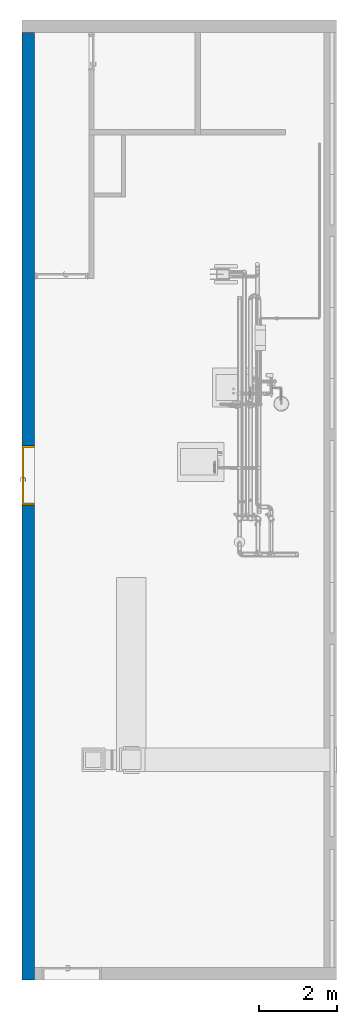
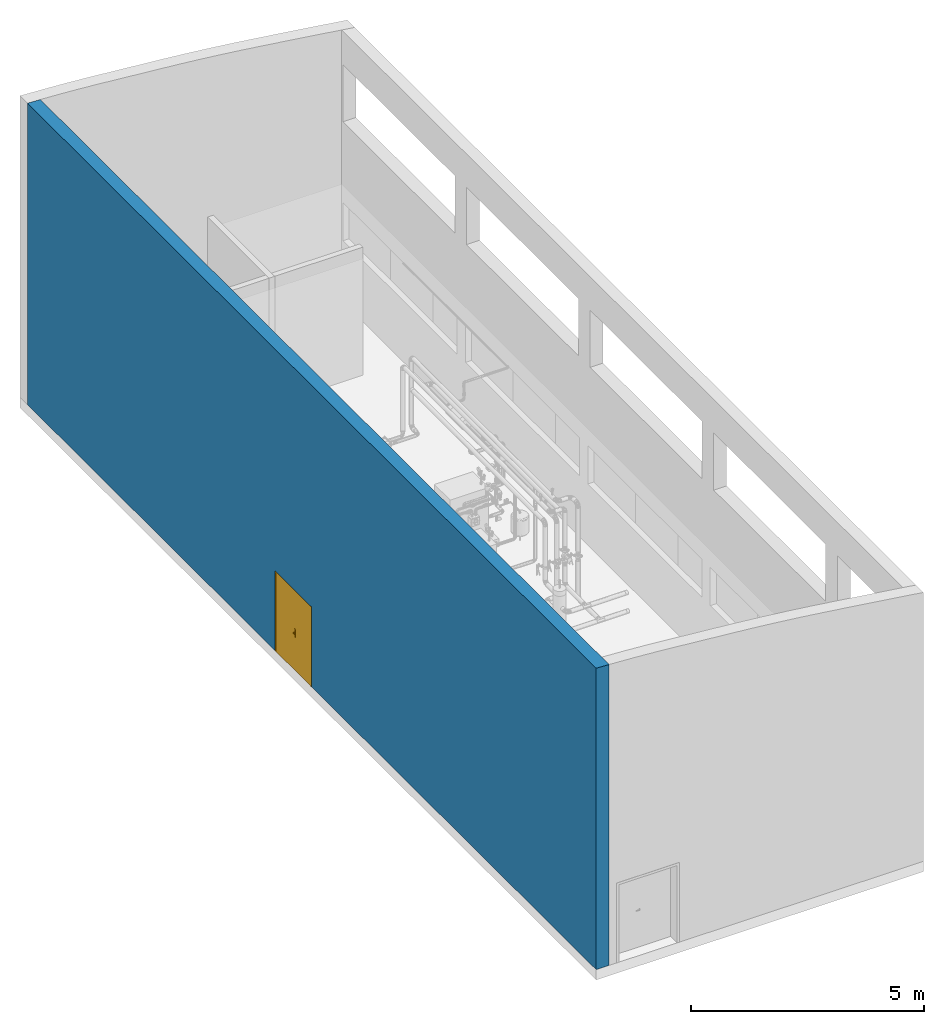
# One storey, part 4 of 43: 1 door, 1 wall, 1 opening.
"""IFC2X3 building model written with IfcOpenShell, lengths in millimetres."""

from ifc_helpers import new_model, entity, si_unit, converted_unit, derived_unit, direction, frame, frame_2d, origin, place, context, subcontext, project, spatial, rectangle, extrude, faceted_brep, source, transform, mapped, material, material_list, layer, layer_set, type_object, type_shapes, element, fill, save


model = new_model("IFC2X3")

# Units and contexts
model_context = context("Model", 3, precision=0.01, world=origin(), true_north=direction((6.123031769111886e-17, 1.0)))
body_context = subcontext(model_context, "Body", "Model", "MODEL_VIEW")
ifc_project = project(units=[si_unit("LENGTHUNIT", "METRE", prefix="MILLI"), si_unit("AREAUNIT", "SQUARE_METRE"), si_unit("VOLUMEUNIT", "CUBIC_METRE"), converted_unit("PLANEANGLEUNIT", "DEGREE", entity("IfcRatioMeasure", 0.017453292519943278), si_unit("PLANEANGLEUNIT", "RADIAN"), dimensions=[0, 0, 0, 0, 0, 0, 0]), si_unit("MASSUNIT", "GRAM", prefix="KILO"), derived_unit("MASSDENSITYUNIT", [(si_unit("MASSUNIT", "GRAM", prefix="KILO"), 1), (si_unit("LENGTHUNIT", "METRE"), -3)]), derived_unit("MOMENTOFINERTIAUNIT", [(si_unit("LENGTHUNIT", "METRE"), 4)]), si_unit("TIMEUNIT", "SECOND"), si_unit("FREQUENCYUNIT", "HERTZ"), si_unit("THERMODYNAMICTEMPERATUREUNIT", "DEGREE_CELSIUS"), derived_unit("THERMALTRANSMITTANCEUNIT", [(si_unit("MASSUNIT", "GRAM", prefix="KILO"), 1), (si_unit("THERMODYNAMICTEMPERATUREUNIT", "KELVIN"), -1), (si_unit("TIMEUNIT", "SECOND"), -3)]), derived_unit("VOLUMETRICFLOWRATEUNIT", [(si_unit("LENGTHUNIT", "METRE"), 3), (si_unit("TIMEUNIT", "SECOND"), -1)]), derived_unit("MASSFLOWRATEUNIT", [(si_unit("MASSUNIT", "GRAM", prefix="KILO"), 1), (si_unit("TIMEUNIT", "SECOND"), -1)]), derived_unit("ROTATIONALFREQUENCYUNIT", [(si_unit("TIMEUNIT", "SECOND"), -1)]), si_unit("ELECTRICCURRENTUNIT", "AMPERE"), si_unit("ELECTRICVOLTAGEUNIT", "VOLT"), si_unit("POWERUNIT", "WATT"), si_unit("FORCEUNIT", "NEWTON", prefix="KILO"), si_unit("ILLUMINANCEUNIT", "LUX"), si_unit("LUMINOUSFLUXUNIT", "LUMEN"), si_unit("LUMINOUSINTENSITYUNIT", "CANDELA"), derived_unit("USERDEFINED", [(si_unit("MASSUNIT", "GRAM", prefix="KILO"), -1), (si_unit("LENGTHUNIT", "METRE"), -2), (si_unit("TIMEUNIT", "SECOND"), 3), (si_unit("LUMINOUSFLUXUNIT", "LUMEN"), 1)]), derived_unit("SOUNDPOWERUNIT", [(si_unit("MASSUNIT", "GRAM", prefix="KILO"), 1), (si_unit("LENGTHUNIT", "METRE"), 2), (si_unit("TIMEUNIT", "SECOND"), -3)]), derived_unit("SOUNDPRESSUREUNIT", [(si_unit("MASSUNIT", "GRAM", prefix="KILO"), 1), (si_unit("LENGTHUNIT", "METRE"), -1), (si_unit("TIMEUNIT", "SECOND"), -2)]), derived_unit("LINEARVELOCITYUNIT", [(si_unit("LENGTHUNIT", "METRE"), 1), (si_unit("TIMEUNIT", "SECOND"), -1)]), si_unit("PRESSUREUNIT", "PASCAL"), derived_unit("USERDEFINED", [(si_unit("LENGTHUNIT", "METRE"), -2), (si_unit("MASSUNIT", "GRAM", prefix="KILO"), 1), (si_unit("TIMEUNIT", "SECOND"), -2)]), derived_unit("LINEARFORCEUNIT", [(si_unit("MASSUNIT", "GRAM", prefix="KILO"), 1), (si_unit("LENGTHUNIT", "METRE"), 1), (si_unit("TIMEUNIT", "SECOND"), -2), (si_unit("LENGTHUNIT", "METRE"), -1)]), derived_unit("PLANARFORCEUNIT", [(si_unit("MASSUNIT", "GRAM", prefix="KILO"), 1), (si_unit("LENGTHUNIT", "METRE"), 1), (si_unit("TIMEUNIT", "SECOND"), -2), (si_unit("LENGTHUNIT", "METRE"), -2)])], contexts=[model_context])

# Site, building, storey
site_placement = place(None, origin())
site = spatial("IfcSite", under=ifc_project, at=site_placement, Name="Default", CompositionType="ELEMENT")
building_placement = place(site_placement, origin())
building = spatial("IfcBuilding", under=site, at=building_placement, CompositionType="ELEMENT")
storey_placement = place(building_placement, frame((0.0, 0.0, 270.0)))
storey = spatial("IfcBuildingStorey", under=building, at=storey_placement, Name="Niveau 0", CompositionType="ELEMENT", Elevation=270.0)

# Wall, opening, door
ifc_material_1 = material(Name="Plaque de mur de gypse")
ifc_layer = layer(ifc_material_1, 320.0)
ifc_layer_set = layer_set([ifc_layer], Name="Mur de base:Générique - 320 mm")
wall_type = type_object("IfcWallType", Name="Mur de base:Générique - 320 mm", PredefinedType="STANDARD", material=ifc_layer_set)
wall_placement = place(storey_placement, frame((-7940.0, -320.0, 0.0), z_axis=(0.0, 0.0, 1.0), x_axis=(0.0, -1.0, 0.0)))
wall = element("IfcWall", 1, at=wall_placement, inside=storey, type_object=wall_type, Name="Mur de base:Générique - 320 mm", ObjectType="Mur de base:Générique - 320 mm", context=body_context, shape_type="Brep", body=[
    faceted_brep([(24390.0, -160.0, 0.0), (12170.0, -160.0, 0.0), (12170.0, 160.0, 0.0), (24070.0, 160.0, 0.0), (24390.0, 160.0, 0.0), (10640.0, -160.0, 0.0), (0.0, -160.0, 0.0), (0.0, 160.0, 0.0), (6200.0, 160.0, 0.0), (6340.0, 160.0, 0.0), (10640.0, 160.0, 0.0), (10640.0, -160.0, 2075.0), (12170.0, -160.0, 2075.0), (24390.0, -160.0, 7890.860457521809), (23214.32583717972, -160.0, 7890.860457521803), (22038.6516743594, -160.0, 7890.860457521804), (20165.575837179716, -160.0, 7890.860457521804), (18292.500000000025, -160.0, 7890.860457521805), (16768.125000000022, -160.0, 7890.860457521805), (15243.750000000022, -160.0, 7890.860457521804), (13719.37500000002, -160.0, 7890.860457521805), (12195.0, -160.0, 7890.860457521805), (10321.92416282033, -160.0, 7890.860457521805), (8448.848325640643, -160.0, 7890.860457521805), (6575.772488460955, -160.0, 7890.860457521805), (4702.69665128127, -160.0, 7890.860457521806), (3527.022488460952, -160.0, 7890.860457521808), (2351.3483256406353, -160.0, 7890.860457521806), (1175.6741628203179, -160.0, 7890.860457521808), (0.0, -160.0, 7890.860457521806), (23500.0, 160.0, 3610.0), (24390.0, 160.0, 7875.203684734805), (23360.0, 160.0, 3610.0), (12170.0, 160.0, 2075.0), (23360.0, 160.0, 5685.0), (24070.0, 160.0, 7875.203684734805), (22565.624984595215, 160.0, 7875.203684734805), (21061.250010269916, 160.0, 7875.203684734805), (19556.875035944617, 160.0, 7875.203684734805), (18052.500020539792, 160.0, 7875.2036847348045), (16548.125005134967, 160.0, 7875.2036847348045), (15043.74998973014, 160.0, 7875.2036847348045), (13539.374974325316, 160.0, 7875.2036847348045), (12035.0, 160.0, 7875.2036847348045), (10530.625025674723, 160.0, 7875.2036847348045), (9026.250010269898, 160.0, 7875.203684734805), (7521.874994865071, 160.0, 7875.2036847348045), (6017.4999794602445, 160.0, 7875.2036847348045), (4513.124964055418, 160.0, 7875.203684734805), (3008.7499897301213, 160.0, 7875.203684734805), (1175.6742013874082, 160.0, 7875.203684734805), (0.0, 160.0, 7875.203684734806), (10640.0, 160.0, 2075.0), (0.0, 160.0, 3610.0), (0.0, 160.0, 3350.0), (23500.0, 160.0, 5685.0), (0.0, 32.10750448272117, 7881.668590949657), (0.0, 96.06913337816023, 7878.471351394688), (0.0, -95.89894618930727, 7887.8598154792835), (0.0, -31.882568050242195, 7884.7974250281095), (24390.0, 96.11078195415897, 7878.469246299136), (24390.0, 32.11676309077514, 7881.668133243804), (24390.0, -31.900785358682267, 7884.798306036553), (24390.0, -95.94021479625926, 7887.861768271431), (23500.0, 150.0, 5685.0), (23500.0, 150.0, 3610.0), (23360.0, 150.0, 5685.0), (23360.0, 150.0, 3610.0), (12478.979576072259, 7.393562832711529, 7882.885152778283), (14291.56399325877, 11.142224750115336, 7882.70128736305), (22626.489024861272, -6.736697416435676, 7883.57609295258), (18804.6883237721, 13.141059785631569, 7882.603151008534), (17498.008407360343, -3.136794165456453, 7883.400383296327), (8274.061817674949, 20.25248662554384, 7882.253455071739), (6448.723547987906, 9.034224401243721, 7882.804710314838), (21371.56572763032, -6.948664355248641, 7883.586432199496), (19991.312545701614, 8.68218086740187, 7882.821975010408), (5265.311708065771, 11.476019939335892, 7882.684903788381), (1763.5109870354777, 3.8082399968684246, 7883.060785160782), (11282.814343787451, -4.403355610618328, 7883.462228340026), (9578.144595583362, -3.8575107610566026, 7883.435578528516), (2989.001610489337, -8.725820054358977, 7883.673088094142), (16297.343925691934, -1.08440201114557, 7883.300109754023), (4135.065264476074, -16.2404089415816, 7884.0389239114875)], [[[0, 1, 2, 3, 4]], [[5, 6, 7, 8, 9, 10]], [[6, 5, 11, 12, 1, 0, 13, 14, 15, 16, 17, 18, 19, 20, 21, 22, 23, 24, 25, 26, 27, 28, 29]], [[4, 3, 30]], [[4, 30, 31]], [[3, 32, 30]], [[32, 3, 2]], [[33, 32, 2]], [[34, 32, 33]], [[35, 34, 33]], [[33, 36, 35]], [[33, 37, 36]], [[33, 38, 37]], [[33, 39, 38]], [[33, 40, 39]], [[33, 41, 40]], [[33, 42, 41]], [[33, 43, 42]], [[33, 44, 43]], [[33, 45, 44]], [[33, 46, 45]], [[33, 47, 46]], [[33, 48, 47]], [[33, 49, 48]], [[33, 50, 49]], [[33, 51, 50]], [[52, 51, 33]], [[51, 52, 8]], [[52, 9, 8]], [[52, 10, 9]], [[51, 8, 53]], [[54, 53, 8]], [[54, 8, 7]], [[35, 31, 55]], [[55, 34, 35]], [[55, 31, 30]], [[56, 57, 51, 53, 54, 7, 6, 29, 58, 59]], [[0, 4, 31, 60, 61, 62, 63, 13]], [[2, 1, 12, 33]], [[33, 12, 11, 52]], [[52, 11, 5, 10]], [[64, 55, 30, 65]], [[32, 34, 66, 67]], [[66, 34, 55, 64]], [[66, 64, 65, 67]], [[67, 65, 30, 32]], [[68, 69, 42]], [[61, 35, 70]], [[17, 71, 72]], [[62, 61, 70]], [[58, 28, 59]], [[50, 51, 57]], [[24, 73, 74]], [[75, 70, 36]], [[71, 16, 76]], [[56, 50, 57]], [[63, 14, 13]], [[24, 74, 77]], [[60, 31, 35]], [[62, 14, 63]], [[59, 78, 56]], [[58, 29, 28]], [[28, 78, 59]], [[27, 78, 28]], [[79, 80, 22]], [[70, 35, 36]], [[80, 79, 44]], [[35, 61, 60]], [[14, 70, 15]], [[73, 45, 46]], [[49, 78, 81]], [[75, 36, 37]], [[78, 50, 56]], [[40, 82, 72]], [[43, 79, 68]], [[82, 18, 72]], [[81, 78, 27]], [[49, 50, 78]], [[70, 14, 62]], [[38, 76, 37]], [[39, 71, 38]], [[15, 70, 75]], [[16, 15, 75]], [[38, 71, 76]], [[81, 27, 26]], [[83, 49, 81]], [[77, 83, 25]], [[48, 77, 47]], [[83, 26, 25]], [[82, 41, 69]], [[48, 49, 83]], [[77, 74, 47]], [[24, 77, 25]], [[73, 24, 23]], [[46, 47, 74]], [[72, 71, 39]], [[16, 71, 17]], [[40, 72, 39]], [[17, 72, 18]], [[41, 82, 40]], [[19, 18, 82]], [[16, 75, 76]], [[37, 76, 75]], [[48, 83, 77]], [[26, 83, 81]], [[73, 80, 45]], [[74, 73, 46]], [[80, 23, 22]], [[23, 80, 73]], [[44, 79, 43]], [[68, 79, 21]], [[44, 45, 80]], [[22, 21, 79]], [[82, 69, 19]], [[69, 68, 20]], [[68, 21, 20]], [[42, 69, 41]], [[42, 43, 68]], [[19, 69, 20]]]),
])
opening_placement = place(wall_placement, frame((12170.0, 160.0, 0.0)))
opening = element("IfcOpeningElement", 2, at=opening_placement, cuts=wall, Name="Int. Double:PP (1.46m x 2.04m):1", ObjectType="Opening", context=body_context, shape_type="SweptSolid", body=[
    extrude(rectangle(XDim=2075.00000000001, YDim=1529.9999999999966, at=frame_2d((1037.500000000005, 764.9999999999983), x_axis=(1.0, 0.0))), frame((0.0, 0.0, 0.0), z_axis=(0.0, -1.0, 0.0), x_axis=(0.0, 0.0, 1.0)), (0.0, 0.0, 1.0), 320.0),
])
ifc_material_2 = material(Name="Bois - Panneau de porte")
ifc_material_3 = material(Name="Finition Peinture - Blanc satiné")
ifc_material_4 = material(Name="Bois - Cadre de porte")
ifc_material_list_1 = material_list([ifc_material_2, ifc_material_3, ifc_material_3, ifc_material_3, ifc_material_3, ifc_material_2, ifc_material_4, ifc_material_4, ifc_material_4])
ifc_material_list_2 = material_list([ifc_material_2, ifc_material_3, ifc_material_3, ifc_material_3, ifc_material_3, ifc_material_2, ifc_material_4, ifc_material_4, ifc_material_4])
door_style = type_object("IfcDoorStyle", Name="Int. Double:PP (1.46m x 2.04m)", ConstructionType="NOTDEFINED", OperationType="NOTDEFINED", ParameterTakesPrecedence=False, Sizeable=False, material=ifc_material_list_2)
shared_shape = source(origin(), body_context, "Body", "Brep", [
    faceted_brep([(765.0, 40.0, 2040.0), (765.0, 40.0, 0.0), (35.0, 40.0, 0.0), (35.0, 40.0, 2040.0), (765.0, 0.0, 2040.0), (35.0, 0.0, 2040.0), (35.0, 0.0, 0.0), (765.0, 0.0, 0.0)], [[[0, 1, 2, 3]], [[4, 5, 6, 7]], [[3, 5, 4, 0]], [[2, 6, 5, 3]], [[1, 7, 6, 2]], [[0, 4, 7, 1]]]),
    faceted_brep([(835.3527618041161, -5.0, 866.003983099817), (845.0, -5.0, 870.0), (845.0, -5.0, 1080.0), (835.352761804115, -5.0, 1083.9960169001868), (825.0, -5.0, 1085.3589838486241), (814.6472381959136, -5.0, 1083.996016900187), (805.0, -5.0, 1080.0), (805.0, -5.0, 870.0), (814.6472381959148, -5.0, 866.003983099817), (825.0, -5.0, 864.6410161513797), (835.352761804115, 0.0, 1083.9960169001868), (845.0, 0.0, 1080.0), (845.0, 0.0, 870.0), (835.3527618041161, 0.0, 866.003983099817), (825.0, 0.0, 864.6410161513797), (814.6472381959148, 0.0, 866.003983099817), (805.0, 0.0, 870.0), (805.0, 0.0, 1080.0), (814.6472381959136, 0.0, 1083.996016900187), (825.0, 0.0, 1085.3589838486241)], [[[0, 1, 2, 3, 4, 5, 6, 7, 8, 9]], [[10, 11, 12, 13, 14, 15, 16, 17, 18, 19]], [[16, 15, 8, 7]], [[8, 15, 14, 9]], [[14, 13, 0, 9]], [[13, 12, 1, 0]], [[2, 1, 12, 11]], [[11, 10, 3, 2]], [[3, 10, 19, 4]], [[19, 18, 5, 4]], [[18, 17, 6, 5]], [[7, 6, 17, 16]]]),
    faceted_brep([(835.3527618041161, 40.0, 866.003983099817), (845.0, 40.0, 870.0), (845.0, 40.0, 1080.0), (835.3527618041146, 40.0, 1083.996016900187), (825.0, 40.0, 1085.3589838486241), (814.6472381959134, 40.0, 1083.9960169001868), (805.0, 40.0, 1080.0), (805.0, 40.0, 870.0), (814.6472381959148, 40.0, 866.0039830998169), (825.0, 40.0, 864.6410161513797), (835.3527618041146, 45.0, 1083.996016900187), (845.0, 45.0, 1080.0), (845.0, 45.0, 870.0), (835.3527618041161, 45.0, 866.003983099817), (825.0, 45.0, 864.6410161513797), (814.6472381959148, 45.0, 866.0039830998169), (805.0, 45.0, 870.0), (805.0, 45.0, 1080.0), (814.6472381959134, 45.0, 1083.9960169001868), (825.0, 45.0, 1085.3589838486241)], [[[0, 1, 2, 3, 4, 5, 6, 7, 8, 9]], [[10, 11, 12, 13, 14, 15, 16, 17, 18, 19]], [[11, 10, 3, 2]], [[3, 10, 19, 4]], [[19, 18, 5, 4]], [[18, 17, 6, 5]], [[7, 6, 17, 16]], [[16, 15, 8, 7]], [[8, 15, 14, 9]], [[14, 13, 0, 9]], [[13, 12, 1, 0]], [[2, 1, 12, 11]]]),
    faceted_brep([(822.9747013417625, -5.0, 1007.7804408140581), (827.0252986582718, -5.0, 1007.7804408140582), (831.0, -5.0, 1007.0), (831.0, -5.0, 993.0), (827.0252986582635, -5.0, 992.2195591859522), (822.9747013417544, -5.0, 992.21955918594), (819.0, -5.0, 993.0), (819.0, -5.0, 1007.0), (819.0, -32.65095070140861, 1007.0), (822.9747013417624, -31.00457549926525, 1007.7804408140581), (839.0235851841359, -47.053459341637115, 1007.7804408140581), (840.7013975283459, -43.00286202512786, 1007.7804408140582), (827.0252986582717, -29.326763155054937, 1007.7804408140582), (831.0, -27.680387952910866, 1007.0), (831.0, -27.68038795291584, 993.0), (827.0252986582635, -29.32676315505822, 992.2195591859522), (840.7013975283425, -43.00286202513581, 992.2195591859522), (839.0235851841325, -47.053459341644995, 992.21955918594), (822.9747013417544, -31.0045754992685, 992.21955918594), (819.0, -32.65095070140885, 993.0), (837.3772099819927, -51.02816068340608, 1007.0), (842.3477727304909, -39.028160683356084, 1007.0), (842.347772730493, -39.02816068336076, 993.0), (837.3772099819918, -51.028160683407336, 993.0), (925.0186406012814, -51.0281606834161, 993.0), (925.0186406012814, -47.05345934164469, 992.2195591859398), (925.0186406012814, -43.002862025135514, 992.219559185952), (925.0186406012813, -39.028160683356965, 993.0), (925.0186406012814, -39.02816068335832, 1007.0), (925.0186406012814, -43.00286202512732, 1007.780440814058), (925.0186406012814, -47.05345934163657, 1007.7804408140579), (925.0186406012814, -51.028160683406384, 1007.0), (877.307697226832, -51.0281606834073, 1007.0), (882.8600190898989, -45.028160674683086, 1007.878686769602), (883.6832066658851, -39.02816068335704, 1007.0), (883.683206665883, -39.028160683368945, 993.0), (882.8600188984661, -45.02816075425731, 992.1213132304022), (877.3077002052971, -51.02816068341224, 993.0)], [[[0, 1, 2, 3, 4, 5, 6, 7]], [[8, 9, 0, 7]], [[9, 10, 11, 12, 1, 0]], [[12, 13, 2, 1]], [[3, 2, 13, 14]], [[14, 15, 4, 3]], [[15, 16, 17, 18, 5, 4]], [[18, 19, 6, 5]], [[7, 6, 19, 8]], [[20, 10, 9, 8]], [[11, 21, 13, 12]], [[14, 13, 21, 22]], [[22, 16, 15, 14]], [[17, 23, 19, 18]], [[8, 19, 23, 20]], [[24, 25, 26, 27, 28, 29, 30, 31]], [[32, 30, 33]], [[31, 30, 32]], [[10, 20, 32]], [[33, 34, 11]], [[21, 11, 34]], [[34, 29, 28]], [[30, 29, 33]], [[29, 34, 33]], [[10, 32, 33]], [[10, 33, 11]], [[22, 21, 34, 28, 27, 35]], [[35, 26, 36]], [[37, 36, 25]], [[22, 35, 16]], [[35, 27, 26]], [[24, 37, 25]], [[23, 17, 37]], [[37, 17, 36]], [[17, 16, 36]], [[16, 35, 36]], [[25, 36, 26]], [[20, 23, 37, 24, 31, 32]]]),
    faceted_brep([(822.9747013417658, 45.0, 1007.7804408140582), (819.0, 45.0, 1007.0), (819.0, 45.0, 993.0), (822.9747013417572, 45.0, 992.2195591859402), (827.0252986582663, 45.0, 992.2195591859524), (831.0, 45.0, 993.0), (831.0, 45.0, 1007.0), (827.0252986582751, 45.0, 1007.7804408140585), (831.0, 67.48520450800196, 993.0), (831.0, 67.48520450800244, 1007.0), (827.0252986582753, 69.13157971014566, 1007.7804408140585), (840.8389061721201, 82.9451872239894, 1007.7804408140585), (839.16109382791, 86.99578454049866, 1007.7804408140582), (822.974701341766, 70.80939205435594, 1007.7804408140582), (819.0, 72.45576725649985, 1007.0), (819.0, 72.455767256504, 993.0), (822.9747013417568, 70.80939205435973, 992.2195591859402), (839.1610938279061, 86.99578454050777, 992.2195591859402), (840.8389061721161, 82.94518722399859, 992.2195591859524), (827.025298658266, 69.13157971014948, 992.2195591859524), (842.4852813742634, 78.97048588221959, 993.0), (842.4852813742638, 78.97048588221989, 1007.0), (837.5147186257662, 90.9704858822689, 1007.0), (837.514718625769, 90.97048588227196, 993.0), (925.0457836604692, 78.97048588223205, 993.0), (925.0457836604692, 82.94518722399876, 992.2195591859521), (925.045783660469, 86.99578454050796, 992.2195591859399), (925.045783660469, 90.97048588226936, 993.0), (925.0457836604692, 90.97048588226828, 1007.0), (925.0457836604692, 86.99578454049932, 1007.780440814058), (925.0457836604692, 82.94518722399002, 1007.7804408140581), (925.0457836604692, 78.97048588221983, 1007.0), (883.7655206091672, 78.97048588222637, 993.0), (883.7655325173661, 78.9704858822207, 1007.0), (882.9423448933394, 84.97048589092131, 1007.8786867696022), (877.4452057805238, 90.9704858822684, 1007.0), (877.4452043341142, 90.9704858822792, 993.0), (882.9423451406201, 84.97048581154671, 992.1213132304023)], [[[0, 1, 2, 3, 4, 5, 6, 7]], [[6, 5, 8, 9]], [[9, 10, 7, 6]], [[10, 11, 12, 13, 0, 7]], [[13, 14, 1, 0]], [[2, 1, 14, 15]], [[15, 16, 3, 2]], [[16, 17, 18, 19, 4, 3]], [[19, 8, 5, 4]], [[9, 8, 20, 21]], [[21, 11, 10, 9]], [[12, 22, 14, 13]], [[15, 14, 22, 23]], [[23, 17, 16, 15]], [[18, 20, 8, 19]], [[24, 25, 26, 27, 28, 29, 30, 31]], [[21, 20, 32, 24, 31, 33]], [[33, 30, 34]], [[35, 34, 29]], [[21, 33, 11]], [[33, 31, 30]], [[28, 35, 29]], [[22, 12, 35]], [[35, 12, 34]], [[12, 11, 34]], [[11, 33, 34]], [[29, 34, 30]], [[22, 35, 28, 27, 36, 23]], [[36, 26, 37]], [[27, 26, 36]], [[17, 23, 36]], [[37, 32, 18]], [[20, 18, 32]], [[32, 25, 24]], [[26, 25, 37]], [[25, 32, 37]], [[17, 36, 37]], [[17, 37, 18]]]),
    faceted_brep([(765.0, 40.0, 2040.0), (1495.0, 40.0, 2040.0), (1495.0, 40.0, 0.0), (765.0, 40.0, 0.0), (765.0, 0.0, 2040.0), (765.0, 0.0, 0.0), (1495.0, 0.0, 0.0), (1495.0, 0.0, 2040.0)], [[[0, 1, 2, 3]], [[4, 5, 6, 7]], [[1, 0, 4, 7]], [[2, 1, 7, 6]], [[3, 2, 6, 5]], [[0, 3, 5, 4]]]),
    faceted_brep([(0.0, 0.0, 0.0), (0.0, 320.0, 0.0), (50.0, 320.0, 0.0), (50.0, 40.0, 0.0), (35.0, 40.0, 0.0), (35.0, 0.0, 0.0), (0.0, 0.0, 2075.0), (0.0, 320.0, 2075.0), (1530.0, 320.0, 2075.0), (1530.0, 320.0, 0.0), (1480.0, 320.0, 0.0), (1480.0, 320.0, 2025.0), (50.0, 320.0, 2025.0), (50.0, 40.0, 2025.0), (1480.0, 40.0, 2025.0), (1480.0, 40.0, 0.0), (1495.0, 40.0, 0.0), (1495.0, 40.0, 2040.0), (35.0, 40.0, 2040.0), (35.0, 0.0, 2040.0), (1495.0, 0.0, 2040.0), (1495.0, 0.0, 0.0), (1530.0, 0.0, 0.0), (1530.0, 0.0, 2075.0)], [[[0, 1, 2, 3, 4, 5]], [[1, 0, 6, 7]], [[2, 1, 7, 8, 9, 10, 11, 12]], [[3, 2, 12, 13]], [[4, 3, 13, 14, 15, 16, 17, 18]], [[5, 4, 18, 19]], [[0, 5, 19, 20, 21, 22, 23, 6]], [[8, 23, 22, 9]], [[22, 21, 16, 15, 10, 9]], [[14, 11, 10, 15]], [[20, 17, 16, 21]], [[7, 6, 23, 8]], [[13, 12, 11, 14]], [[19, 18, 17, 20]]]),
    faceted_brep([(15.0, 320.0, 0.0), (-15.0, 320.0, 0.0), (-15.0, 325.0, 0.0), (15.0, 325.0, 0.0), (15.0, 320.0, 2060.0), (1515.0, 320.0, 2060.0), (1515.0, 320.0, 0.0), (1545.0, 320.0, 0.0), (1545.0, 320.0, 2090.0), (-15.0, 320.0, 2090.0), (-15.0, 325.0, 2090.0), (1545.0, 325.0, 2090.0), (1545.0, 325.0, 0.0), (1515.0, 325.0, 0.0), (1515.0, 325.0, 2060.0), (15.0, 325.0, 2060.0)], [[[0, 1, 2, 3]], [[1, 0, 4, 5, 6, 7, 8, 9]], [[2, 1, 9, 10]], [[3, 2, 10, 11, 12, 13, 14, 15]], [[0, 3, 15, 4]], [[5, 14, 13, 6]], [[6, 13, 12, 7]], [[11, 8, 7, 12]], [[10, 9, 8, 11]], [[4, 15, 14, 5]]]),
    faceted_brep([(-15.0, -5.0, 0.0), (15.0, -5.0, 0.0), (15.0, -5.0, 2060.0), (1515.0, -5.0, 2060.0), (1515.0, -5.0, 0.0), (1545.0, -5.0, 0.0), (1545.0, -5.0, 2090.0), (-15.0, -5.0, 2090.0), (-15.0, 0.0, 0.0), (-15.0, 0.0, 2090.0), (15.0, 0.0, 0.0), (1545.0, 0.0, 2090.0), (1545.0, 0.0, 0.0), (1515.0, 0.0, 0.0), (1515.0, 0.0, 2060.0), (15.0, 0.0, 2060.0)], [[[0, 1, 2, 3, 4, 5, 6, 7]], [[8, 0, 7, 9]], [[10, 8, 9, 11, 12, 13, 14, 15]], [[1, 10, 15, 2]], [[3, 14, 13, 4]], [[11, 6, 5, 12]], [[9, 7, 6, 11]], [[2, 15, 14, 3]], [[4, 13, 12, 5]], [[1, 0, 8, 10]]]),
])
type_shapes(door_style, [shared_shape])
door_placement = place(opening_placement, frame((-1530.0, -320.0, 0.0)))
door = element("IfcDoor", 3, at=door_placement, inside=storey, type_object=door_style, material=ifc_material_list_1, Name="Int. Double:PP (1.46m x 2.04m)", ObjectType="Int. Double:PP (1.46m x 2.04m)", OverallHeight=2075.00000000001, OverallWidth=1529.9999999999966, context=body_context, shape_type="MappedRepresentation", body=[
    mapped(shared_shape, transform((0.0, 0.0, 0.0), scale=1.0)),
])
fill(opening, door)

save(model, "model.ifc")
